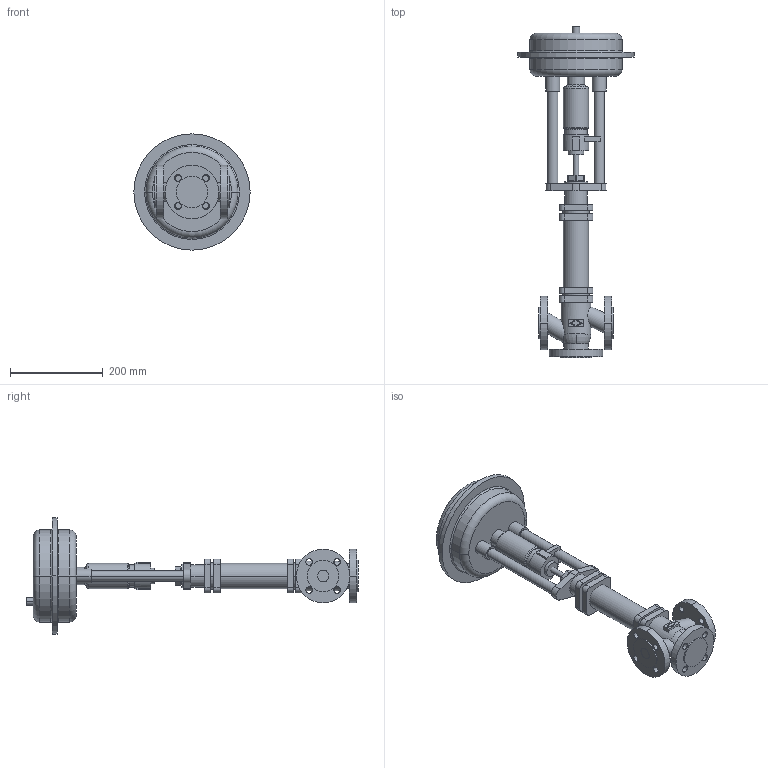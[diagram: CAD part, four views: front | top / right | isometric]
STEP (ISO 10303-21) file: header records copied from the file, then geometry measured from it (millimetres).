
FILE_DESCRIPTION(('OneSpaceDesigner STEP Export'),'2;1');
FILE_NAME('c000000720.stp','2006-09-20T11:13:54',(''),(''),'OneSpace Designer STEP processor for AP214 (Solid Model)','OneSpace Designer 13.20A 18-Aug-2005 (C) CoCreate Software GmbH','');
FILE_SCHEMA(('AUTOMOTIVE_DESIGN { 1 0 10303 214 1 1 1 1 }'));
Length unit declared in the file: millimetre
Products named in the file (2): 1; 2
Bounding box: 250 x 714 x 250 mm (x, y, z)
Volume: 5245677.9 mm3; surface area: 410029.6 mm2
Topology: 2 solids, 2 shells, 236 faces, 572 edges, 375 vertices
Faces by surface type: cylinder 114, plane 100, torus 18, cone 4
Entity records: 6434 total; most frequent: CARTESIAN_POINT 1195, ORIENTED_EDGE 1144, DIRECTION 992, EDGE_CURVE 572, VERTEX_POINT 375, AXIS2_PLACEMENT_3D 355, EDGE_LOOP 295, VECTOR 282
